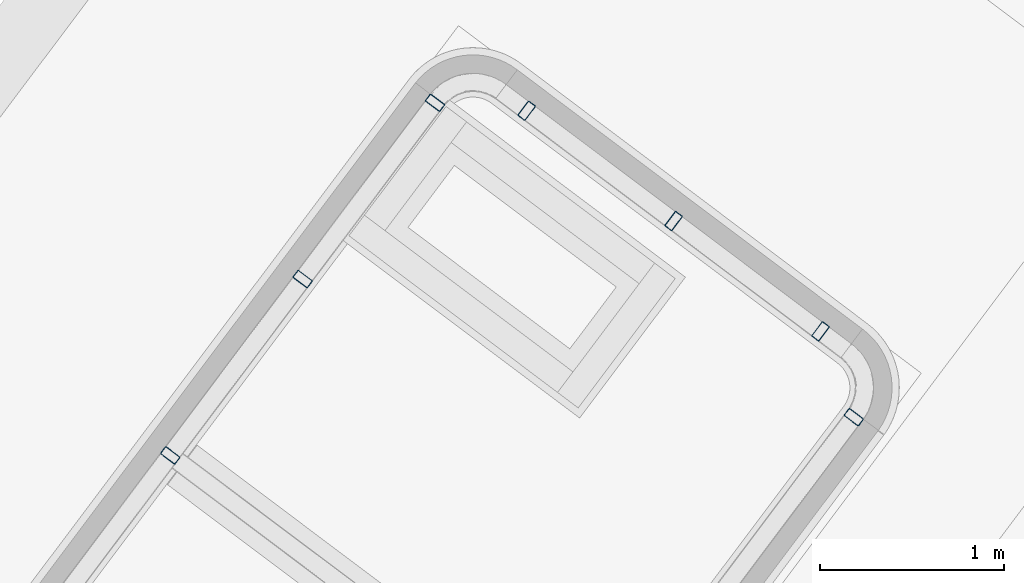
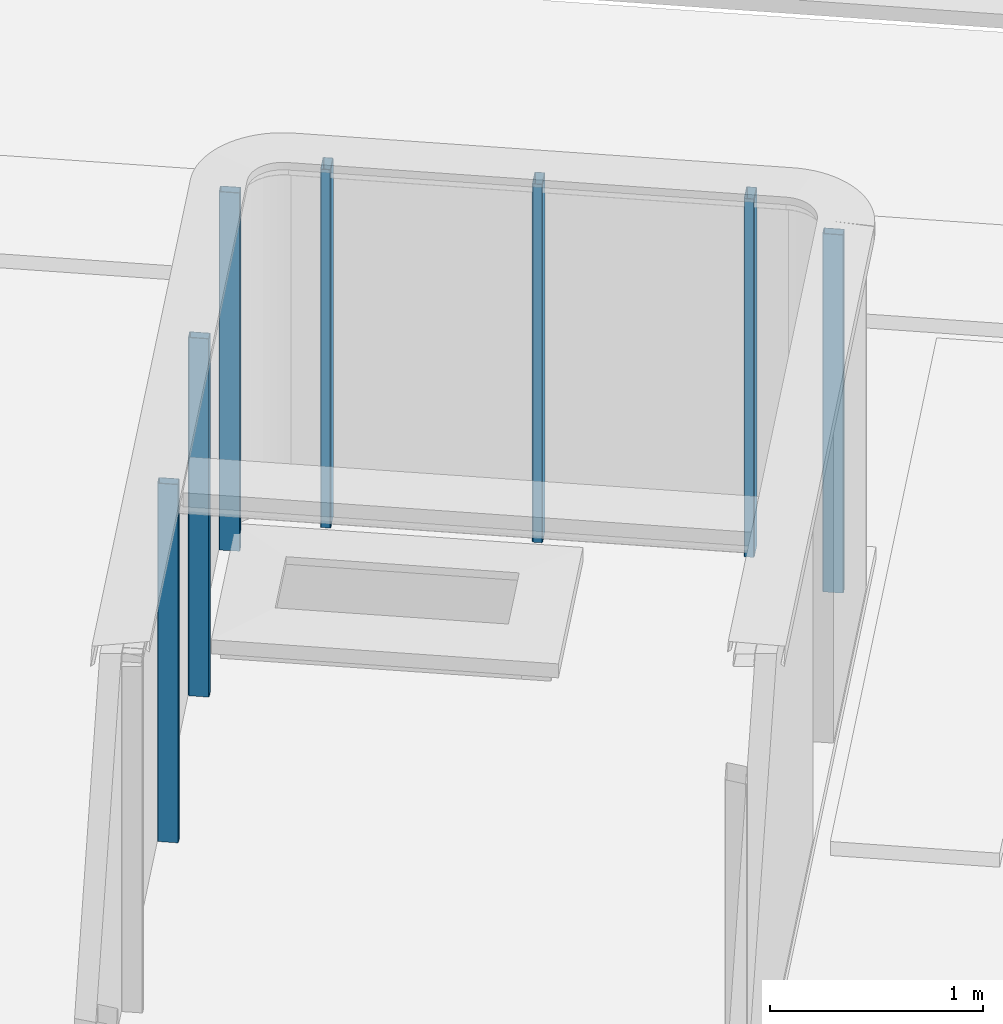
# One storey, part 11 of 28: 7 columns.
"""IFC2X3 building model written with IfcOpenShell, lengths in metres."""

from ifc_helpers import new_model, entity, si_unit, converted_unit, derived_unit, direction, frame, frame_2d, origin, place, context, subcontext, project, spatial, polyline, circle_curve, parameter, trimmed, segment, composite_curve, outline, extrude, source, transform, mapped, material, type_object, type_shapes, element, save


model = new_model("IFC2X3")

# Units and contexts
model_context = context("Model", 3, precision=1e-05, world=origin(), true_north=direction((6.123031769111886e-17, 1.0)))
body_context = subcontext(model_context, "Body", "Model", "MODEL_VIEW")
ifc_project = project(units=[si_unit("LENGTHUNIT", "METRE"), si_unit("AREAUNIT", "SQUARE_METRE"), si_unit("VOLUMEUNIT", "CUBIC_METRE"), converted_unit("PLANEANGLEUNIT", "DEGREE", entity("IfcRatioMeasure", 0.017453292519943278), si_unit("PLANEANGLEUNIT", "RADIAN"), dimensions=[0, 0, 0, 0, 0, 0, 0]), si_unit("MASSUNIT", "GRAM", prefix="KILO"), derived_unit("MASSDENSITYUNIT", [(si_unit("MASSUNIT", "GRAM", prefix="KILO"), 1), (si_unit("LENGTHUNIT", "METRE"), -3)]), derived_unit("IONCONCENTRATIONUNIT", [(si_unit("MASSUNIT", "GRAM", prefix="KILO"), 1), (si_unit("LENGTHUNIT", "METRE"), -3)]), derived_unit("MOMENTOFINERTIAUNIT", [(si_unit("LENGTHUNIT", "METRE"), 4)]), si_unit("TIMEUNIT", "SECOND"), si_unit("FREQUENCYUNIT", "HERTZ"), si_unit("THERMODYNAMICTEMPERATUREUNIT", "DEGREE_CELSIUS"), derived_unit("THERMALTRANSMITTANCEUNIT", [(si_unit("MASSUNIT", "GRAM", prefix="KILO"), 1), (si_unit("THERMODYNAMICTEMPERATUREUNIT", "KELVIN"), -1), (si_unit("TIMEUNIT", "SECOND"), -3)]), derived_unit("THERMALCONDUCTANCEUNIT", [(si_unit("MASSUNIT", "GRAM", prefix="KILO"), 1), (si_unit("THERMODYNAMICTEMPERATUREUNIT", "KELVIN"), -1), (si_unit("TIMEUNIT", "SECOND"), -3), (si_unit("LENGTHUNIT", "METRE"), 1)]), derived_unit("VOLUMETRICFLOWRATEUNIT", [(si_unit("LENGTHUNIT", "METRE"), 3), (si_unit("TIMEUNIT", "SECOND"), -1)]), derived_unit("MASSFLOWRATEUNIT", [(si_unit("MASSUNIT", "GRAM", prefix="KILO"), 1), (si_unit("TIMEUNIT", "SECOND"), -1)]), derived_unit("ROTATIONALFREQUENCYUNIT", [(si_unit("TIMEUNIT", "SECOND"), -1)]), si_unit("ELECTRICCURRENTUNIT", "AMPERE"), si_unit("ELECTRICVOLTAGEUNIT", "VOLT"), si_unit("POWERUNIT", "WATT"), si_unit("FORCEUNIT", "NEWTON", prefix="KILO"), si_unit("ILLUMINANCEUNIT", "LUX"), si_unit("LUMINOUSFLUXUNIT", "LUMEN"), si_unit("LUMINOUSINTENSITYUNIT", "CANDELA"), derived_unit("USERDEFINED", [(si_unit("MASSUNIT", "GRAM", prefix="KILO"), -1), (si_unit("LENGTHUNIT", "METRE"), -2), (si_unit("TIMEUNIT", "SECOND"), 3), (si_unit("LUMINOUSFLUXUNIT", "LUMEN"), 1)]), derived_unit("USERDEFINED", [(si_unit("MASSUNIT", "GRAM", prefix="KILO"), 1), (si_unit("TIMEUNIT", "SECOND"), -3), (si_unit("LENGTHUNIT", "METRE"), 3), (si_unit("ELECTRICCURRENTUNIT", "AMPERE"), -2)]), derived_unit("SOUNDPOWERUNIT", [(si_unit("MASSUNIT", "GRAM", prefix="KILO"), 1), (si_unit("TIMEUNIT", "SECOND"), -3), (si_unit("LENGTHUNIT", "METRE"), 2)]), derived_unit("SOUNDPRESSUREUNIT", [(si_unit("MASSUNIT", "GRAM", prefix="KILO"), 1), (si_unit("LENGTHUNIT", "METRE"), -1), (si_unit("TIMEUNIT", "SECOND"), -2)]), derived_unit("LINEARVELOCITYUNIT", [(si_unit("LENGTHUNIT", "METRE"), 1), (si_unit("TIMEUNIT", "SECOND"), -1)]), si_unit("PRESSUREUNIT", "PASCAL"), derived_unit("USERDEFINED", [(si_unit("MASSUNIT", "GRAM", prefix="KILO"), 1), (si_unit("LENGTHUNIT", "METRE"), -2), (si_unit("TIMEUNIT", "SECOND"), -2)]), derived_unit("LINEARFORCEUNIT", [(si_unit("MASSUNIT", "GRAM", prefix="KILO"), 1), (si_unit("TIMEUNIT", "SECOND"), -2)]), derived_unit("PLANARFORCEUNIT", [(si_unit("MASSUNIT", "GRAM", prefix="KILO"), 1), (si_unit("LENGTHUNIT", "METRE"), -1), (si_unit("TIMEUNIT", "SECOND"), -2)]), derived_unit("SPECIFICHEATCAPACITYUNIT", [(si_unit("THERMODYNAMICTEMPERATUREUNIT", "KELVIN"), -1), (si_unit("LENGTHUNIT", "METRE"), 2), (si_unit("TIMEUNIT", "SECOND"), -2)]), derived_unit("HEATINGVALUEUNIT", [(si_unit("LENGTHUNIT", "METRE"), 2), (si_unit("TIMEUNIT", "SECOND"), -2)]), derived_unit("VAPORPERMEABILITYUNIT", [(si_unit("LENGTHUNIT", "METRE"), -1), (si_unit("TIMEUNIT", "SECOND"), 1)]), derived_unit("DYNAMICVISCOSITYUNIT", [(si_unit("MASSUNIT", "GRAM", prefix="KILO"), 1), (si_unit("TIMEUNIT", "SECOND"), -1), (si_unit("LENGTHUNIT", "METRE"), -1)]), derived_unit("THERMALEXPANSIONCOEFFICIENTUNIT", [(si_unit("THERMODYNAMICTEMPERATUREUNIT", "KELVIN"), -1)]), derived_unit("MODULUSOFELASTICITYUNIT", [(si_unit("MASSUNIT", "GRAM", prefix="KILO"), 1), (si_unit("LENGTHUNIT", "METRE"), -1), (si_unit("TIMEUNIT", "SECOND"), -2)]), derived_unit("ISOTHERMALMOISTURECAPACITYUNIT", [(si_unit("LENGTHUNIT", "METRE"), 3), (si_unit("MASSUNIT", "GRAM", prefix="KILO"), -1)]), derived_unit("MOISTUREDIFFUSIVITYUNIT", [(si_unit("TIMEUNIT", "SECOND"), -1), (si_unit("LENGTHUNIT", "METRE"), 2)])], contexts=[model_context])

# Site, building, storey
site_placement = place(None, frame((0.0, 0.0, 235.0), z_axis=(0.0, 0.0, 1.0), x_axis=(-0.7996477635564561, 0.6004693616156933, 0.0)))
site = spatial("IfcSite", under=ifc_project, at=site_placement, Name="Default", CompositionType="ELEMENT")
building_placement = place(site_placement, origin())
building = spatial("IfcBuilding", under=site, at=building_placement, CompositionType="ELEMENT")
storey_placement = place(building_placement, frame((0.0, 0.0, 3.400000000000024)))
storey = spatial("IfcBuildingStorey", under=building, at=storey_placement, Name="PC- Coberta STR", CompositionType="ELEMENT", Elevation=3.400000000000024)

# Columns
ifc_material = material(Name="Metal - Acero - 345 MPa")
column_type = type_object("IfcColumnType", Name="STR- P- Acer- RHS- Rectangular- T1:100 x 50RHS", PredefinedType="COLUMN", material=ifc_material)
shared_shape = source(origin(), body_context, "Body", "SweptSolid", [
    extrude(outline(composite_curve([segment(polyline([(-0.01900000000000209, -0.04999999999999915), (0.019000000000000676, -0.04999999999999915)]), True, "CONTINUOUS"), segment(trimmed(circle_curve(frame_2d((0.019000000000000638, -0.04400000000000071), x_axis=(-1.0, 0.0)), 0.005999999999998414), [parameter(90.00000000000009)], [parameter(180.0000000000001)], True, "PARAMETER"), True, "CONTINUOUS"), segment(polyline([(0.024999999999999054, -0.044000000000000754), (0.02499999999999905, 0.044000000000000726)]), True, "CONTINUOUS"), segment(trimmed(circle_curve(frame_2d((0.018999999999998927, 0.044000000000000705), x_axis=(-1.0, 0.0)), 0.006000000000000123), [parameter(179.9999999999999)], [parameter(269.99999999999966)], True, "PARAMETER"), True, "CONTINUOUS"), segment(polyline([(0.018999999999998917, 0.05000000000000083), (-0.01899999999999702, 0.050000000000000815)]), True, "CONTINUOUS"), segment(trimmed(circle_curve(frame_2d((-0.018999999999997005, 0.043999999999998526), x_axis=(-1.0, 0.0)), 0.006000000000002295), [parameter(269.99999999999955)], [parameter(359.9999999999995)], True, "PARAMETER"), True, "CONTINUOUS"), segment(polyline([(-0.024999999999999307, 0.04399999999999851), (-0.024999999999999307, -0.04400000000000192)]), True, "CONTINUOUS"), segment(trimmed(circle_curve(frame_2d((-0.019000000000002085, -0.04400000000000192), x_axis=(-1.0, 0.0)), 0.005999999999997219), [parameter(359.9999999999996)], [parameter(89.99999999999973)], True, "PARAMETER"), True, "CONTINUOUS")], self_intersect=False), holes=[composite_curve([segment(trimmed(circle_curve(frame_2d((-0.019000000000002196, -0.044000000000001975), x_axis=(-1.0, 0.0)), 0.0029999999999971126), [parameter(0.0)], [parameter(90.00000000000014)], True, "PARAMETER"), False, "CONTINUOUS"), segment(polyline([(-0.021999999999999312, -0.044000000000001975), (-0.021999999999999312, 0.04400000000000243)]), True, "CONTINUOUS"), segment(trimmed(circle_curve(frame_2d((-0.019000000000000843, 0.04400000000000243), x_axis=(-1.0, 0.0)), 0.00299999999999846), [parameter(269.99999999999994)], [parameter(0.0)], True, "PARAMETER"), False, "CONTINUOUS"), segment(polyline([(-0.01900000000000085, 0.0470000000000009), (0.01899999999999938, 0.04700000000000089)]), True, "CONTINUOUS"), segment(trimmed(circle_curve(frame_2d((0.018999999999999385, 0.04399999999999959), x_axis=(-1.0, 0.0)), 0.0030000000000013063), [parameter(179.99999999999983)], [parameter(270.0)], True, "PARAMETER"), False, "CONTINUOUS"), segment(polyline([(0.022000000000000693, 0.04399999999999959), (0.022000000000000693, -0.04399999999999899)]), True, "CONTINUOUS"), segment(trimmed(circle_curve(frame_2d((0.019000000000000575, -0.043999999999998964), x_axis=(-1.0, 0.0)), 0.0030000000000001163), [parameter(90.00000000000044)], [parameter(180.0000000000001)], True, "PARAMETER"), False, "CONTINUOUS"), segment(polyline([(0.019000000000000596, -0.04699999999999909), (-0.019000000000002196, -0.04699999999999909)]), True, "CONTINUOUS")], self_intersect=False)]), frame((0.02658749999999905, 0.051587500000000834, 0.0), z_axis=(0.0, 0.0, 1.0), x_axis=(-1.0, 0.0, 0.0)), (0.0, 0.0, 1.0), 2.05),
])
type_shapes(column_type, [shared_shape])
for number, where, z_axis, x_axis, name in (
    (1, (59.80859795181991, -34.853604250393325, 0.4), (0.0, 0.0, 1.0), (0.0, -1.0, 0.0), "STR- P- Acer- RHS- Rectangular- T1:100 x 50RHS"),
    (2, (59.808597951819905, -36.05360425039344, 0.4), (0.0, 0.0, 1.0), (0.0, -1.0, 0.0), "STR- P- Acer- RHS- Rectangular- T1:100 x 50RHS"),
    (3, (59.808597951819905, -37.25360425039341, 0.4), (0.0, 0.0, 1.0), (0.0, -1.0, 0.0), "STR- P- Acer- RHS- Rectangular- T1:100 x 50RHS"),
    (4, (59.46177293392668, -37.49360422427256, 0.4), (0.0, 0.0, 1.0), (-1.0, 0.0, 0.0), "STR- P- Acer- RHS- Rectangular- T1:100 x 50RHS"),
    (5, (58.46177293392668, -37.49360422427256, 0.4), (0.0, 0.0, 1.0), (-1.0, 0.0, 0.0), "STR- P- Acer- RHS- Rectangular- T1:100 x 50RHS"),
    (6, (57.461772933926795, -37.49360422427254, 0.4), (0.0, 0.0, 1.0), (-1.0, 0.0, 0.0), "STR- P- Acer- RHS- Rectangular- T1:100 x 50RHS"),
    (7, (56.958597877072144, -37.253604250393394, 0.4), (0.0, 0.0, 1.0), (0.0, -1.0, 0.0), "STR- P- Acer- RHS- Rectangular- T1:100 x 50RHS"),
):
    element("IfcColumn", number, at=place(storey_placement, frame(where, z_axis=z_axis, x_axis=x_axis)), inside=storey, type_object=column_type, material=ifc_material, Name=name, ObjectType="STR- P- Acer- RHS- Rectangular- T1:100 x 50RHS", context=body_context, shape_type="MappedRepresentation", body=[
        mapped(shared_shape, transform((0.0, 0.0, 0.0), scale=1.0)),
    ])

save(model, "model.ifc")
